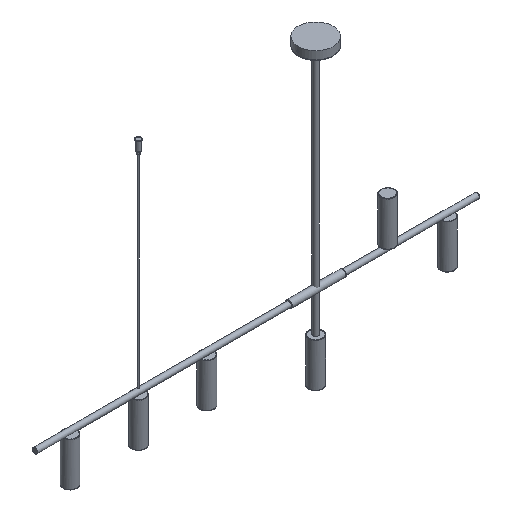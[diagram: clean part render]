
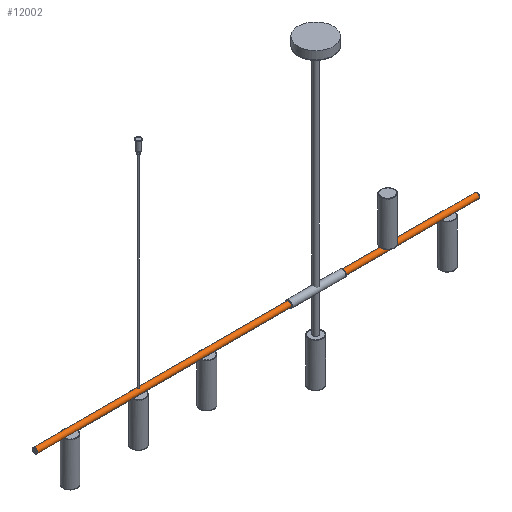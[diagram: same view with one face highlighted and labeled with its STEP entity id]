
A CAD part, isometric view. The second image highlights one B-rep face of the part: STEP entity #12002.
In plain terms, the highlighted free-form (B-spline) face has degree [2, 1] with [9, 2] control points.
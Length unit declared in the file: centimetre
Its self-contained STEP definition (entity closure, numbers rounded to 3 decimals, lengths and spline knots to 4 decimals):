
#11907 = CARTESIAN_POINT ('', (79.9, 0.75, 23.75));
#11908 = VERTEX_POINT ('', #11907);
#11915 = CARTESIAN_POINT ('', (79.9, 0.75, 23.75));
#11916 = CARTESIAN_POINT ('', (79.9, 0.75, 24.5));
#11917 = CARTESIAN_POINT ('', (79.9, 0., 24.5));
#11918 = CARTESIAN_POINT ('', (79.9, -0.75, 24.5));
#11919 = CARTESIAN_POINT ('', (79.9, -0.75, 23.75));
#11920 = CARTESIAN_POINT ('', (79.9, -0.75, 23.));
#11921 = CARTESIAN_POINT ('', (79.9, 0., 23.));
#11922 = CARTESIAN_POINT ('', (79.9, 0.75, 23.));
#11923 = CARTESIAN_POINT ('', (79.9, 0.75, 23.75));
#11924 = (
   BOUNDED_CURVE ()
   B_SPLINE_CURVE (2, (#11915, #11916, #11917, #11918, #11919, #11920, #11921, #11922, #11923), .UNSPECIFIED., .T., .U.)
   B_SPLINE_CURVE_WITH_KNOTS ((3, 2, 2, 2, 3), (0., 0.25, 0.5, 0.75, 1.), .UNSPECIFIED.)
   CURVE ()
   GEOMETRIC_REPRESENTATION_ITEM ()
   RATIONAL_B_SPLINE_CURVE ((1., 0.707, 1., 0.707, 1., 0.707, 1., 0.707, 1.))
   REPRESENTATION_ITEM ('')
);
#11925 = EDGE_CURVE ('', #11908, #11908, #11924, .T.);
#11960 = CARTESIAN_POINT ('', (-45.9, 0.75, 23.75));
#11961 = VERTEX_POINT ('', #11960);
#11962 = CARTESIAN_POINT ('', (-45.9, 0.75, 23.75));
#11963 = CARTESIAN_POINT ('', (79.9, 0.75, 23.75));
#11964 = B_SPLINE_CURVE_WITH_KNOTS ('', 1, (#11962, #11963), .UNSPECIFIED., .F., .U., (2, 2), (0.0008, 0.9992), .UNSPECIFIED.);
#11965 = EDGE_CURVE ('', #11961, #11908, #11964, .T.);
#11966 = ORIENTED_EDGE ('', *, *, #11965, .T.);
#11967 = ORIENTED_EDGE ('', *, *, #11925, .F.);
#11968 = ORIENTED_EDGE ('', *, *, #11965, .F.);
#11969 = CARTESIAN_POINT ('', (-45.9, 0.75, 23.75));
#11970 = CARTESIAN_POINT ('', (-45.9, 0.75, 24.5));
#11971 = CARTESIAN_POINT ('', (-45.9, 0., 24.5));
#11972 = CARTESIAN_POINT ('', (-45.9, -0.75, 24.5));
#11973 = CARTESIAN_POINT ('', (-45.9, -0.75, 23.75));
#11974 = CARTESIAN_POINT ('', (-45.9, -0.75, 23.));
#11975 = CARTESIAN_POINT ('', (-45.9, 0., 23.));
#11976 = CARTESIAN_POINT ('', (-45.9, 0.75, 23.));
#11977 = CARTESIAN_POINT ('', (-45.9, 0.75, 23.75));
#11978 = (
   BOUNDED_CURVE ()
   B_SPLINE_CURVE (2, (#11969, #11970, #11971, #11972, #11973, #11974, #11975, #11976, #11977), .UNSPECIFIED., .T., .U.)
   B_SPLINE_CURVE_WITH_KNOTS ((3, 2, 2, 2, 3), (0., 0.25, 0.5, 0.75, 1.), .UNSPECIFIED.)
   CURVE ()
   GEOMETRIC_REPRESENTATION_ITEM ()
   RATIONAL_B_SPLINE_CURVE ((1., 0.707, 1., 0.707, 1., 0.707, 1., 0.707, 1.))
   REPRESENTATION_ITEM ('')
);
#11979 = EDGE_CURVE ('', #11961, #11961, #11978, .T.);
#11980 = ORIENTED_EDGE ('', *, *, #11979, .T.);
#11981 = EDGE_LOOP ('', (#11966, #11967, #11968, #11980));
#11982 = FACE_OUTER_BOUND ('', #11981, .T.);
#11983 = CARTESIAN_POINT ('', (-46., 0.75, 23.75));
#11984 = CARTESIAN_POINT ('', (80., 0.75, 23.75));
#11985 = CARTESIAN_POINT ('', (-46., 0.75, 24.5));
#11986 = CARTESIAN_POINT ('', (80., 0.75, 24.5));
#11987 = CARTESIAN_POINT ('', (-46., 0., 24.5));
#11988 = CARTESIAN_POINT ('', (80., 0., 24.5));
#11989 = CARTESIAN_POINT ('', (-46., -0.75, 24.5));
#11990 = CARTESIAN_POINT ('', (80., -0.75, 24.5));
#11991 = CARTESIAN_POINT ('', (-46., -0.75, 23.75));
#11992 = CARTESIAN_POINT ('', (80., -0.75, 23.75));
#11993 = CARTESIAN_POINT ('', (-46., -0.75, 23.));
#11994 = CARTESIAN_POINT ('', (80., -0.75, 23.));
#11995 = CARTESIAN_POINT ('', (-46., 0., 23.));
#11996 = CARTESIAN_POINT ('', (80., 0., 23.));
#11997 = CARTESIAN_POINT ('', (-46., 0.75, 23.));
#11998 = CARTESIAN_POINT ('', (80., 0.75, 23.));
#11999 = CARTESIAN_POINT ('', (-46., 0.75, 23.75));
#12000 = CARTESIAN_POINT ('', (80., 0.75, 23.75));
#12001 = (
   BOUNDED_SURFACE ()
   B_SPLINE_SURFACE (2, 1, ((#11983, #11984), (#11985, #11986), (#11987, #11988), (#11989, #11990), (#11991, #11992), (#11993, #11994), (#11995, #11996), (#11997, #11998), (#11999, #12000)), .UNSPECIFIED., .T., .F., .U.)
   B_SPLINE_SURFACE_WITH_KNOTS ((3, 2, 2, 2, 3), (2, 2), (0., 0.25, 0.5, 0.75, 1.), (0., 1.), .UNSPECIFIED.)
   SURFACE ()
   GEOMETRIC_REPRESENTATION_ITEM ()
   RATIONAL_B_SPLINE_SURFACE (((1., 1.), (0.707, 0.707), (1., 1.), (0.707, 0.707), (1., 1.), (0.707, 0.707), (1., 1.), (0.707, 0.707), (1., 1.)))
   REPRESENTATION_ITEM ('')
);
#12002 = ADVANCED_FACE ('', (#11982), #12001, .T.);
